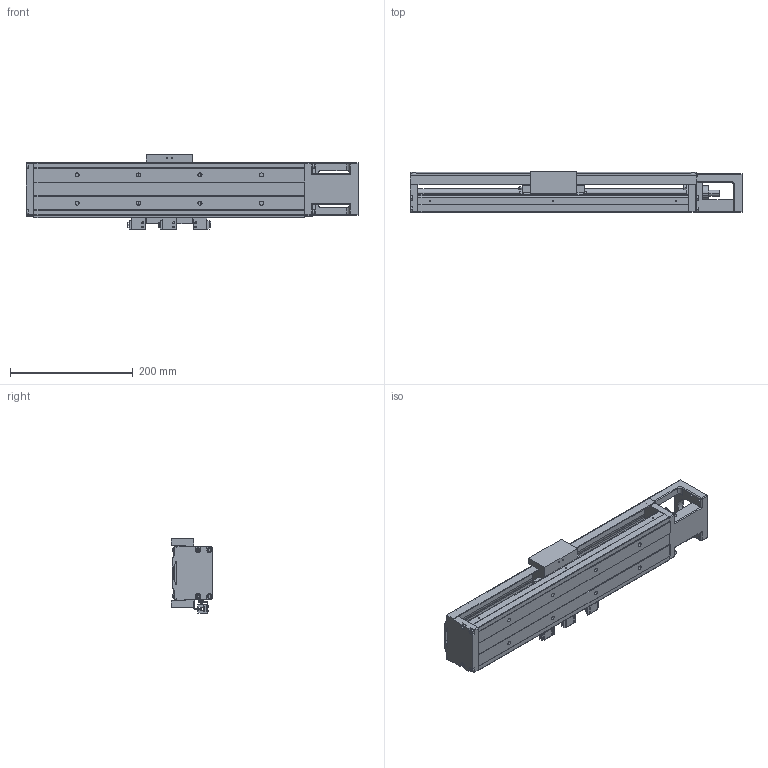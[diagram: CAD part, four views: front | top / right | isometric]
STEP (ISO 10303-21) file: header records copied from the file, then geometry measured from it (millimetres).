
FILE_DESCRIPTION (( 'STEP AP203' ), '1' );
FILE_NAME ('HKK86D20C-440A1-F0CS2.stp', '2021-11-30T02:59:14', ( '' ), ( '' ), 'SwSTEP 2.0', 'SolidWorks 2018', '' );
FILE_SCHEMA (( 'CONFIG_CONTROL_DESIGN' ));
Length unit declared in the file: millimetre
Products named in the file (1): HKK86D20C-440A1-F0CS2
Bounding box: 540 x 68 x 121.5 mm (x, y, z)
Volume: 1455287.9 mm3; surface area: 389553.4 mm2
Topology: 6 solids, 15 shells, 1343 faces, 3397 edges, 2152 vertices
Faces by surface type: plane 757, cylinder 415, cone 122, torus 32, sphere 9, bspline 8
Entity records: 40385 total; most frequent: CARTESIAN_POINT 8089, ORIENTED_EDGE 6670, DIRECTION 6667, EDGE_CURVE 3335, LINE 2257, VECTOR 2257, AXIS2_PLACEMENT_3D 2205, VERTEX_POINT 2148
